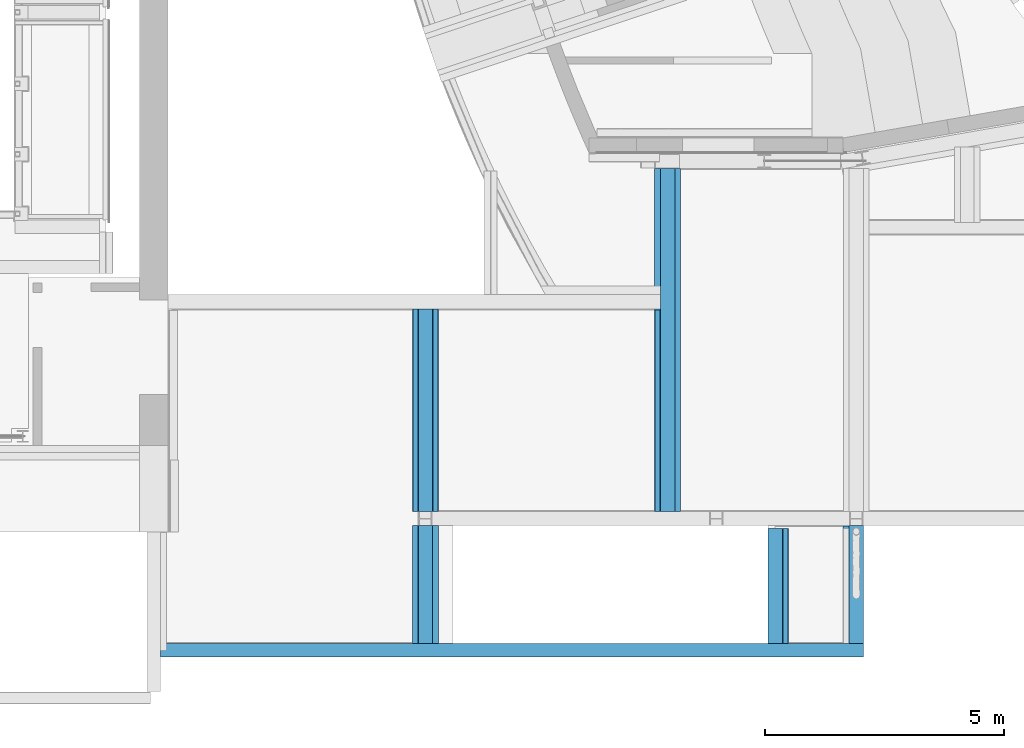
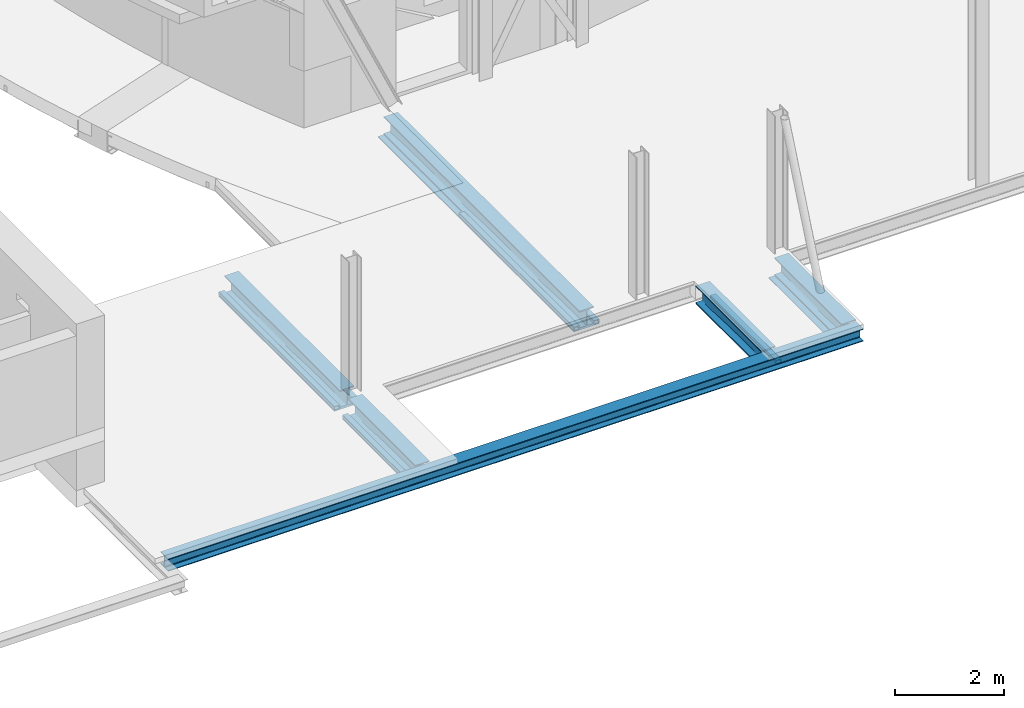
# One storey, part 22 of 68: 12 beams.
"""IFC2X3 building model written with IfcOpenShell, lengths in millimetres."""

from ifc_helpers import new_model, entity, si_unit, converted_unit, derived_unit, direction, frame, frame_2d, origin, origin_2d_with_axis, place, context, subcontext, project, spatial, polyline, circle_curve, parameter, trimmed, segment, composite_curve, rectangle, i_section, outline, extrude, source, transform, mapped, material, material_list, type_object, type_shapes, element, save


model = new_model("IFC2X3")

# Units and contexts
model_context = context("Model", 3, precision=0.01, world=origin(), true_north=direction((6.12303176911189e-17, 1.0)))
body_context = subcontext(model_context, "Body", "Model", "MODEL_VIEW")
ifc_project = project(units=[si_unit("LENGTHUNIT", "METRE", prefix="MILLI"), si_unit("AREAUNIT", "SQUARE_METRE", prefix="MILLI"), si_unit("VOLUMEUNIT", "CUBIC_METRE"), converted_unit("PLANEANGLEUNIT", "DEGREE", entity("IfcRatioMeasure", 0.0174532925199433), si_unit("PLANEANGLEUNIT", "RADIAN"), dimensions=[0, 0, 0, 0, 0, 0, 0]), si_unit("MASSUNIT", "GRAM", prefix="KILO"), derived_unit("MASSDENSITYUNIT", [(si_unit("MASSUNIT", "GRAM", prefix="KILO"), 1), (si_unit("LENGTHUNIT", "METRE"), -3)]), derived_unit("MOMENTOFINERTIAUNIT", [(si_unit("LENGTHUNIT", "METRE"), 4)]), si_unit("TIMEUNIT", "SECOND"), si_unit("FREQUENCYUNIT", "HERTZ"), si_unit("THERMODYNAMICTEMPERATUREUNIT", "DEGREE_CELSIUS"), derived_unit("THERMALTRANSMITTANCEUNIT", [(si_unit("MASSUNIT", "GRAM", prefix="KILO"), 1), (si_unit("THERMODYNAMICTEMPERATUREUNIT", "KELVIN"), -1), (si_unit("TIMEUNIT", "SECOND"), -3)]), derived_unit("VOLUMETRICFLOWRATEUNIT", [(si_unit("LENGTHUNIT", "METRE"), 3), (si_unit("TIMEUNIT", "SECOND"), -1)]), si_unit("ELECTRICCURRENTUNIT", "AMPERE"), si_unit("ELECTRICVOLTAGEUNIT", "VOLT"), si_unit("POWERUNIT", "WATT"), si_unit("FORCEUNIT", "NEWTON", prefix="KILO"), si_unit("ILLUMINANCEUNIT", "LUX"), si_unit("LUMINOUSFLUXUNIT", "LUMEN"), si_unit("LUMINOUSINTENSITYUNIT", "CANDELA"), derived_unit("USERDEFINED", [(si_unit("MASSUNIT", "GRAM", prefix="KILO"), -1), (si_unit("LENGTHUNIT", "METRE"), -2), (si_unit("TIMEUNIT", "SECOND"), 3), (si_unit("LUMINOUSFLUXUNIT", "LUMEN"), 1)]), derived_unit("LINEARVELOCITYUNIT", [(si_unit("LENGTHUNIT", "METRE"), 1), (si_unit("TIMEUNIT", "SECOND"), -1)]), si_unit("PRESSUREUNIT", "PASCAL"), derived_unit("USERDEFINED", [(si_unit("LENGTHUNIT", "METRE"), -2), (si_unit("MASSUNIT", "GRAM", prefix="KILO"), 1), (si_unit("TIMEUNIT", "SECOND"), -2)]), derived_unit("LINEARFORCEUNIT", [(si_unit("MASSUNIT", "GRAM", prefix="KILO"), 1), (si_unit("LENGTHUNIT", "METRE"), 1), (si_unit("TIMEUNIT", "SECOND"), -2), (si_unit("LENGTHUNIT", "METRE"), -1)]), derived_unit("PLANARFORCEUNIT", [(si_unit("MASSUNIT", "GRAM", prefix="KILO"), 1), (si_unit("LENGTHUNIT", "METRE"), 1), (si_unit("TIMEUNIT", "SECOND"), -2), (si_unit("LENGTHUNIT", "METRE"), -2)])], contexts=[model_context])

# Site, building, storey
site_placement = place(None, origin())
site = spatial("IfcSite", under=ifc_project, at=site_placement, Name="Theater aan de Parade", CompositionType="ELEMENT")
building_placement = place(site_placement, origin())
building = spatial("IfcBuilding", under=site, at=building_placement, Name="Theater aan de Parade", CompositionType="ELEMENT")
storey_placement = place(building_placement, frame((0.0, 0.0, 8750.0)))
storey = spatial("IfcBuildingStorey", under=building, at=storey_placement, Name="02 tweede verdieping", CompositionType="ELEMENT", Elevation=8750.0)

# Beams
ifc_material_1 = material(Name="00_PBT_MAT_staal_S355")
beam_type_1 = type_object("IfcBeamType", Name="28_PBT_SF_staal_H-profiel (void):S355_HE280B", PredefinedType="NOTDEFINED")
beam_1_placement = place(storey_placement, frame((52025.3051596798, 10197.0, 0.0), z_axis=(0.0, 0.0, 1.0), x_axis=(-1.0, 0.0, 0.0)))
element("IfcBeam", 1, at=beam_1_placement, inside=storey, type_object=beam_type_1, material=ifc_material_1, Name="28_PBT_SF_staal_H-profiel (void):S355_HE280B", ObjectType="28_PBT_SF_staal_H-profiel (void):S355_HE280B", context=body_context, shape_type="SweptSolid", body=[
    extrude(outline(composite_curve([segment(polyline([(122.0, -140.0), (140.0, -140.0)]), True, "CONTINUOUS"), segment(polyline([(140.0, -140.0), (140.0, 140.0)]), True, "CONTINUOUS"), segment(polyline([(140.0, 140.0), (122.0, 140.0)]), True, "CONTINUOUS"), segment(polyline([(122.0, 140.0), (122.0, 29.2500000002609)]), True, "CONTINUOUS"), segment(trimmed(circle_curve(frame_2d((98.0, 29.2500000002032), x_axis=(1.0, 0.0)), 24.0000000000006), [parameter(270.0)], [parameter(0.0)], True, "PARAMETER"), False, "CONTINUOUS"), segment(polyline([(98.0, 5.25000000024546), (-98.0, 5.2499999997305)]), True, "CONTINUOUS"), segment(trimmed(circle_curve(frame_2d((-98.0, 29.2499999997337), x_axis=(0.0, -1.0)), 24.0000000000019), [parameter(270.00000000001)], [parameter(0.0)], True, "PARAMETER"), False, "CONTINUOUS"), segment(polyline([(-122.0, 29.2499999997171), (-122.0, 140.0)]), True, "CONTINUOUS"), segment(polyline([(-122.0, 140.0), (-140.0, 140.0)]), True, "CONTINUOUS"), segment(polyline([(-140.0, 140.0), (-140.0, -140.0)]), True, "CONTINUOUS"), segment(polyline([(-140.0, -140.0), (-122.0, -140.0)]), True, "CONTINUOUS"), segment(polyline([(-122.0, -140.0), (-122.0, -29.2500000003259)]), True, "CONTINUOUS"), segment(trimmed(circle_curve(frame_2d((-98.0, -29.2500000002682), x_axis=(-1.0, 0.0)), 24.0000000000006), [parameter(270.0)], [parameter(0.0)], True, "PARAMETER"), False, "CONTINUOUS"), segment(polyline([(-98.0, -5.25000000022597), (98.0, -5.24999999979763)]), True, "CONTINUOUS"), segment(trimmed(circle_curve(frame_2d((98.0, -29.2499999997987), x_axis=(0.0, 1.0)), 24.0000000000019), [parameter(270.00000000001)], [parameter(0.0)], True, "PARAMETER"), False, "CONTINUOUS"), segment(polyline([(122.0, -29.2499999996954), (122.0, -140.0)]), True, "CONTINUOUS")], self_intersect=False)), frame((0.0, 0.0, -320.0), z_axis=(1.0, 0.0, 0.0), x_axis=(0.0, 0.0, -1.0)), (0.0, 0.0, 1.0), 14731.4470295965),
])
ifc_material_2 = material(Name="00_PBT_MAT_staal_S235")
beam_type_2 = type_object("IfcBeamType", Name="28_PBT_SF_staal_koker:S235_K80x120x6.3", PredefinedType="NOTDEFINED")
beam_2_placement = place(storey_placement, frame((42569.909163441, 10337.0, 0.0), z_axis=(0.0, 0.0, 1.0), x_axis=(0.0, 1.0, 0.0)))
element("IfcBeam", 2, at=beam_2_placement, inside=storey, type_object=beam_type_2, material=ifc_material_2, Name="28_PBT_SF_staal_koker:S235_K80x120x6.3", ObjectType="28_PBT_SF_staal_koker:S235_K80x120x6.3", context=body_context, shape_type="SweptSolid", body=[
    extrude(outline(composite_curve([segment(trimmed(circle_curve(frame_2d((-50.5500000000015, -30.5499999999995), x_axis=(1.0, 0.0)), 9.45), [parameter(180.0)], [parameter(270.0)], True, "PARAMETER"), True, "CONTINUOUS"), segment(polyline([(-50.5500000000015, -40.0), (50.5500000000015, -40.0)]), True, "CONTINUOUS"), segment(trimmed(circle_curve(frame_2d((50.5500000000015, -30.5499999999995), x_axis=(1.0, 0.0)), 9.45), [parameter(270.0)], [parameter(0.0)], True, "PARAMETER"), True, "CONTINUOUS"), segment(polyline([(60.0, -30.5499999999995), (60.0, 30.5500000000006)]), True, "CONTINUOUS"), segment(trimmed(circle_curve(frame_2d((50.5500000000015, 30.5500000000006), x_axis=(1.0, 0.0)), 9.45), [parameter(3.56222124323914e-13)], [parameter(90.0000000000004)], True, "PARAMETER"), True, "CONTINUOUS"), segment(polyline([(50.5500000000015, 40.0), (-50.5500000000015, 40.0)]), True, "CONTINUOUS"), segment(trimmed(circle_curve(frame_2d((-50.5500000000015, 30.5500000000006), x_axis=(1.0, 0.0)), 9.45), [parameter(90.0000000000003)], [parameter(180.0)], True, "PARAMETER"), True, "CONTINUOUS"), segment(polyline([(-60.0, 30.5500000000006), (-60.0, -30.5499999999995)]), True, "CONTINUOUS")], self_intersect=False), holes=[composite_curve([segment(trimmed(circle_curve(frame_2d((47.3999999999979, 27.4000000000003), x_axis=(1.0, 0.0)), 6.3), [parameter(5.08888749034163e-14)], [parameter(90.0000000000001)], True, "PARAMETER"), False, "CONTINUOUS"), segment(polyline([(53.6999999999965, 27.4000000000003), (53.6999999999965, -27.3999999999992)]), True, "CONTINUOUS"), segment(trimmed(circle_curve(frame_2d((47.3999999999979, -27.3999999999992), x_axis=(1.0, 0.0)), 6.3), [parameter(269.999999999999)], [parameter(360.0)], True, "PARAMETER"), False, "CONTINUOUS"), segment(polyline([(47.3999999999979, -33.6999999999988), (-47.3999999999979, -33.6999999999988)]), True, "CONTINUOUS"), segment(trimmed(circle_curve(frame_2d((-47.3999999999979, -27.3999999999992), x_axis=(1.0, 0.0)), 6.3), [parameter(180.0)], [parameter(270.0)], True, "PARAMETER"), False, "CONTINUOUS"), segment(polyline([(-53.6999999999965, -27.3999999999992), (-53.6999999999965, 27.4000000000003)]), True, "CONTINUOUS"), segment(trimmed(circle_curve(frame_2d((-47.3999999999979, 27.4000000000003), x_axis=(1.0, 0.0)), 6.3), [parameter(89.9999999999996)], [parameter(180.0)], True, "PARAMETER"), False, "CONTINUOUS"), segment(polyline([(-47.3999999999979, 33.700000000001), (47.3999999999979, 33.700000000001)]), True, "CONTINUOUS")], self_intersect=False)]), frame((0.0, -60.0, -505.0), z_axis=(1.0, 0.0, 0.0), x_axis=(0.0, 1.0, 0.0)), (0.0, 0.0, 1.0), 2467.99999999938),
])
beam_3_placement = place(storey_placement, frame((50450.4654816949, 10337.0, 0.0), z_axis=(0.0, 0.0, 1.0), x_axis=(0.0, 1.0, 0.0)))
element("IfcBeam", 3, at=beam_3_placement, inside=storey, type_object=beam_type_2, material=ifc_material_2, Name="28_PBT_SF_staal_koker:S235_K80x120x6.3", ObjectType="28_PBT_SF_staal_koker:S235_K80x120x6.3", context=body_context, shape_type="SweptSolid", body=[
    extrude(outline(composite_curve([segment(polyline([(-30.5499999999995, -60.0), (30.5500000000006, -60.0)]), True, "CONTINUOUS"), segment(trimmed(circle_curve(frame_2d((30.5500000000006, -50.5500000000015), x_axis=(0.0, 1.0)), 9.45), [parameter(180.0)], [parameter(270.0)], True, "PARAMETER"), True, "CONTINUOUS"), segment(polyline([(40.0, -50.5500000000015), (40.0, 50.5500000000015)]), True, "CONTINUOUS"), segment(trimmed(circle_curve(frame_2d((30.5500000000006, 50.5500000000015), x_axis=(0.0, 1.0)), 9.45), [parameter(270.0)], [parameter(360.0)], True, "PARAMETER"), True, "CONTINUOUS"), segment(polyline([(30.5500000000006, 60.0), (-30.5499999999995, 60.0)]), True, "CONTINUOUS"), segment(trimmed(circle_curve(frame_2d((-30.5499999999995, 50.5500000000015), x_axis=(0.0, 1.0)), 9.45), [parameter(0.0)], [parameter(90.0000000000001)], True, "PARAMETER"), True, "CONTINUOUS"), segment(polyline([(-40.0, 50.5500000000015), (-40.0, -50.5500000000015)]), True, "CONTINUOUS"), segment(trimmed(circle_curve(frame_2d((-30.5499999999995, -50.5500000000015), x_axis=(0.0, 1.0)), 9.45), [parameter(90.0)], [parameter(180.0)], True, "PARAMETER"), True, "CONTINUOUS")], self_intersect=False), holes=[composite_curve([segment(polyline([(33.700000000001, 47.3999999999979), (33.700000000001, -47.3999999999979)]), True, "CONTINUOUS"), segment(trimmed(circle_curve(frame_2d((27.4000000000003, -47.3999999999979), x_axis=(0.0, 1.0)), 6.3), [parameter(180.0)], [parameter(270.0)], True, "PARAMETER"), False, "CONTINUOUS"), segment(polyline([(27.4000000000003, -53.6999999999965), (-27.3999999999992, -53.6999999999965)]), True, "CONTINUOUS"), segment(trimmed(circle_curve(frame_2d((-27.3999999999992, -47.3999999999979), x_axis=(0.0, 1.0)), 6.3), [parameter(90.0)], [parameter(180.0)], True, "PARAMETER"), False, "CONTINUOUS"), segment(polyline([(-33.6999999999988, -47.3999999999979), (-33.6999999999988, 47.3999999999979)]), True, "CONTINUOUS"), segment(trimmed(circle_curve(frame_2d((-27.3999999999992, 47.3999999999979), x_axis=(0.0, 1.0)), 6.3), [parameter(4.07110999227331e-13)], [parameter(90.0000000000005)], True, "PARAMETER"), False, "CONTINUOUS"), segment(polyline([(-27.3999999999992, 53.6999999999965), (27.4000000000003, 53.6999999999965)]), True, "CONTINUOUS"), segment(trimmed(circle_curve(frame_2d((27.4000000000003, 47.3999999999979), x_axis=(0.0, 1.0)), 6.3), [parameter(270.0)], [parameter(360.0)], True, "PARAMETER"), False, "CONTINUOUS")], self_intersect=False)]), frame((0.0, 60.0, -505.0), z_axis=(1.0, 0.0, 0.0), x_axis=(0.0, 0.0, 1.0)), (0.0, 0.0, 1.0), 2412.99999999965),
])
beam_4_placement = place(storey_placement, frame((42574.9091634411, 17350.244375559, 0.0), z_axis=(0.0, 0.0, 1.0), x_axis=(0.0, -1.0, 0.0)))
element("IfcBeam", 4, at=beam_4_placement, inside=storey, type_object=beam_type_2, material=ifc_material_2, Name="28_PBT_SF_staal_koker:S235_K80x120x6.3", ObjectType="28_PBT_SF_staal_koker:S235_K80x120x6.3", context=body_context, shape_type="SweptSolid", body=[
    extrude(outline(composite_curve([segment(polyline([(-30.5499999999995, -60.0), (30.5500000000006, -60.0)]), True, "CONTINUOUS"), segment(trimmed(circle_curve(frame_2d((30.5500000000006, -50.5499999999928), x_axis=(0.0, 1.0)), 9.45), [parameter(180.0)], [parameter(270.0)], True, "PARAMETER"), True, "CONTINUOUS"), segment(polyline([(40.0, -50.5500000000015), (40.0, 50.5500000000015)]), True, "CONTINUOUS"), segment(trimmed(circle_curve(frame_2d((30.5500000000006, 50.5500000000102), x_axis=(0.0, 1.0)), 9.45), [parameter(270.0)], [parameter(360.0)], True, "PARAMETER"), True, "CONTINUOUS"), segment(polyline([(30.5500000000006, 60.0), (-30.5499999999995, 60.0)]), True, "CONTINUOUS"), segment(trimmed(circle_curve(frame_2d((-30.5499999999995, 50.5500000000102), x_axis=(0.0, 1.0)), 9.45), [parameter(0.0)], [parameter(90.0000000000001)], True, "PARAMETER"), True, "CONTINUOUS"), segment(polyline([(-40.0, 50.5500000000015), (-40.0, -50.5500000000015)]), True, "CONTINUOUS"), segment(trimmed(circle_curve(frame_2d((-30.5499999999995, -50.5499999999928), x_axis=(0.0, 1.0)), 9.45), [parameter(90.0)], [parameter(180.0)], True, "PARAMETER"), True, "CONTINUOUS")], self_intersect=False), holes=[composite_curve([segment(polyline([(33.700000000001, 47.3999999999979), (33.700000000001, -47.3999999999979)]), True, "CONTINUOUS"), segment(trimmed(circle_curve(frame_2d((27.4000000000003, -47.3999999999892), x_axis=(0.0, 1.0)), 6.3), [parameter(180.0)], [parameter(270.0)], True, "PARAMETER"), False, "CONTINUOUS"), segment(polyline([(27.4000000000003, -53.6999999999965), (-27.3999999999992, -53.6999999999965)]), True, "CONTINUOUS"), segment(trimmed(circle_curve(frame_2d((-27.3999999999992, -47.3999999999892), x_axis=(0.0, 1.0)), 6.3), [parameter(90.0)], [parameter(180.0)], True, "PARAMETER"), False, "CONTINUOUS"), segment(polyline([(-33.6999999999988, -47.3999999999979), (-33.6999999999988, 47.3999999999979)]), True, "CONTINUOUS"), segment(trimmed(circle_curve(frame_2d((-27.3999999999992, 47.4000000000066), x_axis=(0.0, 1.0)), 6.3), [parameter(4.07110999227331e-13)], [parameter(90.0000000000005)], True, "PARAMETER"), False, "CONTINUOUS"), segment(polyline([(-27.3999999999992, 53.6999999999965), (27.4000000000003, 53.6999999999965)]), True, "CONTINUOUS"), segment(trimmed(circle_curve(frame_2d((27.4000000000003, 47.4000000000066), x_axis=(0.0, 1.0)), 6.3), [parameter(270.0)], [parameter(360.0)], True, "PARAMETER"), False, "CONTINUOUS")], self_intersect=False)]), frame((0.0, 60.0, -505.0), z_axis=(1.0, 0.0, 0.0), x_axis=(0.0, 0.0, 1.0)), (0.0, 0.0, 1.0), 4245.24437555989),
])
beam_5_placement = place(storey_placement, frame((43114.9091634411, 17350.244375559, 0.0), z_axis=(0.0, 0.0, 1.0), x_axis=(0.0, -1.0, 0.0)))
element("IfcBeam", 5, at=beam_5_placement, inside=storey, type_object=beam_type_2, material=ifc_material_2, Name="28_PBT_SF_staal_koker:S235_K80x120x6.3", ObjectType="28_PBT_SF_staal_koker:S235_K80x120x6.3", context=body_context, shape_type="SweptSolid", body=[
    extrude(outline(composite_curve([segment(trimmed(circle_curve(frame_2d((-50.5500000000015, -30.5499999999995), x_axis=(1.0, 0.0)), 9.45), [parameter(180.0)], [parameter(270.0)], True, "PARAMETER"), True, "CONTINUOUS"), segment(polyline([(-50.5499999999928, -40.0), (50.5500000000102, -40.0)]), True, "CONTINUOUS"), segment(trimmed(circle_curve(frame_2d((50.5500000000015, -30.5499999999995), x_axis=(1.0, 0.0)), 9.45), [parameter(270.0)], [parameter(0.0)], True, "PARAMETER"), True, "CONTINUOUS"), segment(polyline([(60.0, -30.5499999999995), (60.0, 30.5500000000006)]), True, "CONTINUOUS"), segment(trimmed(circle_curve(frame_2d((50.5500000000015, 30.5500000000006), x_axis=(1.0, 0.0)), 9.45), [parameter(3.56222124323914e-13)], [parameter(90.0000000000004)], True, "PARAMETER"), True, "CONTINUOUS"), segment(polyline([(50.5500000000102, 40.0), (-50.5499999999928, 40.0)]), True, "CONTINUOUS"), segment(trimmed(circle_curve(frame_2d((-50.5500000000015, 30.5500000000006), x_axis=(1.0, 0.0)), 9.45), [parameter(90.0000000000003)], [parameter(180.0)], True, "PARAMETER"), True, "CONTINUOUS"), segment(polyline([(-60.0, 30.5500000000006), (-60.0, -30.5499999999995)]), True, "CONTINUOUS")], self_intersect=False), holes=[composite_curve([segment(trimmed(circle_curve(frame_2d((47.3999999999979, 27.4000000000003), x_axis=(1.0, 0.0)), 6.3), [parameter(5.08888749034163e-14)], [parameter(90.0000000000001)], True, "PARAMETER"), False, "CONTINUOUS"), segment(polyline([(53.7000000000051, 27.4000000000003), (53.7000000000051, -27.3999999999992)]), True, "CONTINUOUS"), segment(trimmed(circle_curve(frame_2d((47.3999999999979, -27.3999999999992), x_axis=(1.0, 0.0)), 6.3), [parameter(269.999999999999)], [parameter(360.0)], True, "PARAMETER"), False, "CONTINUOUS"), segment(polyline([(47.4000000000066, -33.6999999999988), (-47.3999999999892, -33.6999999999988)]), True, "CONTINUOUS"), segment(trimmed(circle_curve(frame_2d((-47.3999999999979, -27.3999999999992), x_axis=(1.0, 0.0)), 6.3), [parameter(180.0)], [parameter(270.0)], True, "PARAMETER"), False, "CONTINUOUS"), segment(polyline([(-53.6999999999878, -27.3999999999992), (-53.6999999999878, 27.4000000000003)]), True, "CONTINUOUS"), segment(trimmed(circle_curve(frame_2d((-47.3999999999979, 27.4000000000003), x_axis=(1.0, 0.0)), 6.3), [parameter(89.9999999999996)], [parameter(180.0)], True, "PARAMETER"), False, "CONTINUOUS"), segment(polyline([(-47.3999999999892, 33.700000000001), (47.4000000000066, 33.700000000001)]), True, "CONTINUOUS")], self_intersect=False)]), frame((0.0, -60.0, -505.0), z_axis=(1.0, 0.0, 0.0), x_axis=(0.0, 1.0, 0.0)), (0.0, 0.0, 1.0), 4245.24437555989),
])
beam_6_placement = place(storey_placement, frame((47651.4115208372, 17330.244375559, 0.0), z_axis=(0.0, 0.0, 1.0), x_axis=(0.0, -1.0, 0.0)))
element("IfcBeam", 6, at=beam_6_placement, inside=storey, type_object=beam_type_2, material=ifc_material_2, Name="28_PBT_SF_staal_koker:S235_K80x120x6.3", ObjectType="28_PBT_SF_staal_koker:S235_K80x120x6.3", context=body_context, shape_type="SweptSolid", body=[
    extrude(outline(composite_curve([segment(polyline([(-30.5499999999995, -60.0), (30.5500000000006, -60.0)]), True, "CONTINUOUS"), segment(trimmed(circle_curve(frame_2d((30.5500000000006, -50.5499999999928), x_axis=(0.0, 1.0)), 9.45), [parameter(180.0)], [parameter(270.0)], True, "PARAMETER"), True, "CONTINUOUS"), segment(polyline([(40.0, -50.5500000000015), (40.0, 50.5500000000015)]), True, "CONTINUOUS"), segment(trimmed(circle_curve(frame_2d((30.5500000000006, 50.5500000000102), x_axis=(0.0, 1.0)), 9.45), [parameter(270.0)], [parameter(360.0)], True, "PARAMETER"), True, "CONTINUOUS"), segment(polyline([(30.5500000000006, 60.0), (-30.5499999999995, 60.0)]), True, "CONTINUOUS"), segment(trimmed(circle_curve(frame_2d((-30.5499999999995, 50.5500000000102), x_axis=(0.0, 1.0)), 9.45), [parameter(0.0)], [parameter(90.0000000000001)], True, "PARAMETER"), True, "CONTINUOUS"), segment(polyline([(-40.0, 50.5500000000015), (-40.0, -50.5500000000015)]), True, "CONTINUOUS"), segment(trimmed(circle_curve(frame_2d((-30.5499999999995, -50.5499999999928), x_axis=(0.0, 1.0)), 9.45), [parameter(90.0)], [parameter(180.0)], True, "PARAMETER"), True, "CONTINUOUS")], self_intersect=False), holes=[composite_curve([segment(polyline([(33.700000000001, 47.3999999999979), (33.700000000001, -47.3999999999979)]), True, "CONTINUOUS"), segment(trimmed(circle_curve(frame_2d((27.4000000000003, -47.3999999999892), x_axis=(0.0, 1.0)), 6.3), [parameter(180.0)], [parameter(270.0)], True, "PARAMETER"), False, "CONTINUOUS"), segment(polyline([(27.4000000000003, -53.6999999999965), (-27.3999999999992, -53.6999999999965)]), True, "CONTINUOUS"), segment(trimmed(circle_curve(frame_2d((-27.3999999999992, -47.3999999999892), x_axis=(0.0, 1.0)), 6.3), [parameter(90.0)], [parameter(180.0)], True, "PARAMETER"), False, "CONTINUOUS"), segment(polyline([(-33.6999999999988, -47.3999999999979), (-33.6999999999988, 47.3999999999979)]), True, "CONTINUOUS"), segment(trimmed(circle_curve(frame_2d((-27.3999999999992, 47.4000000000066), x_axis=(0.0, 1.0)), 6.3), [parameter(4.07110999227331e-13)], [parameter(90.0000000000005)], True, "PARAMETER"), False, "CONTINUOUS"), segment(polyline([(-27.3999999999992, 53.6999999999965), (27.4000000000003, 53.6999999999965)]), True, "CONTINUOUS"), segment(trimmed(circle_curve(frame_2d((27.4000000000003, 47.4000000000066), x_axis=(0.0, 1.0)), 6.3), [parameter(270.0)], [parameter(360.0)], True, "PARAMETER"), False, "CONTINUOUS")], self_intersect=False)]), frame((0.0, 60.0, -505.0), z_axis=(1.0, 0.0, 0.0), x_axis=(0.0, 0.0, 1.0)), (0.0, 0.0, 1.0), 4225.2443755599),
])
beam_7_placement = place(storey_placement, frame((48191.4115208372, 20295.0, 0.0), z_axis=(0.0, 0.0, 1.0), x_axis=(0.0, -1.0, 0.0)))
element("IfcBeam", 7, at=beam_7_placement, inside=storey, type_object=beam_type_2, material=ifc_material_2, Name="28_PBT_SF_staal_koker:S235_K80x120x6.3", ObjectType="28_PBT_SF_staal_koker:S235_K80x120x6.3", context=body_context, shape_type="SweptSolid", body=[
    extrude(outline(composite_curve([segment(trimmed(circle_curve(frame_2d((-50.5500000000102, -30.5499999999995), x_axis=(1.0, 0.0)), 9.45), [parameter(180.0)], [parameter(270.0)], True, "PARAMETER"), True, "CONTINUOUS"), segment(polyline([(-50.5500000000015, -40.0), (50.5500000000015, -40.0)]), True, "CONTINUOUS"), segment(trimmed(circle_curve(frame_2d((50.5499999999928, -30.5499999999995), x_axis=(1.0, 0.0)), 9.45), [parameter(270.0)], [parameter(0.0)], True, "PARAMETER"), True, "CONTINUOUS"), segment(polyline([(60.0, -30.5499999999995), (60.0, 30.5500000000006)]), True, "CONTINUOUS"), segment(trimmed(circle_curve(frame_2d((50.5499999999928, 30.5500000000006), x_axis=(1.0, 0.0)), 9.45), [parameter(3.56222124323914e-13)], [parameter(90.0000000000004)], True, "PARAMETER"), True, "CONTINUOUS"), segment(polyline([(50.5500000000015, 40.0), (-50.5500000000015, 40.0)]), True, "CONTINUOUS"), segment(trimmed(circle_curve(frame_2d((-50.5500000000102, 30.5500000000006), x_axis=(1.0, 0.0)), 9.45), [parameter(90.0000000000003)], [parameter(180.0)], True, "PARAMETER"), True, "CONTINUOUS"), segment(polyline([(-60.0, 30.5500000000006), (-60.0, -30.5499999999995)]), True, "CONTINUOUS")], self_intersect=False), holes=[composite_curve([segment(trimmed(circle_curve(frame_2d((47.3999999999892, 27.4000000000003), x_axis=(1.0, 0.0)), 6.3), [parameter(5.08888749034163e-14)], [parameter(90.0000000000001)], True, "PARAMETER"), False, "CONTINUOUS"), segment(polyline([(53.6999999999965, 27.4000000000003), (53.6999999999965, -27.3999999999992)]), True, "CONTINUOUS"), segment(trimmed(circle_curve(frame_2d((47.3999999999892, -27.3999999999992), x_axis=(1.0, 0.0)), 6.3), [parameter(269.999999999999)], [parameter(360.0)], True, "PARAMETER"), False, "CONTINUOUS"), segment(polyline([(47.3999999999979, -33.6999999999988), (-47.3999999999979, -33.6999999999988)]), True, "CONTINUOUS"), segment(trimmed(circle_curve(frame_2d((-47.4000000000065, -27.3999999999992), x_axis=(1.0, 0.0)), 6.3), [parameter(180.0)], [parameter(270.0)], True, "PARAMETER"), False, "CONTINUOUS"), segment(polyline([(-53.6999999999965, -27.3999999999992), (-53.6999999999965, 27.4000000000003)]), True, "CONTINUOUS"), segment(trimmed(circle_curve(frame_2d((-47.4000000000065, 27.4000000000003), x_axis=(1.0, 0.0)), 6.3), [parameter(89.9999999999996)], [parameter(180.0)], True, "PARAMETER"), False, "CONTINUOUS"), segment(polyline([(-47.3999999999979, 33.700000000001), (47.3999999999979, 33.700000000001)]), True, "CONTINUOUS")], self_intersect=False)]), frame((0.0, -60.0, -505.0), z_axis=(1.0, 0.0, 0.0), x_axis=(0.0, 1.0, 0.0)), (0.0, 0.0, 1.0), 7190.00000000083),
])
ifc_material_3 = material(Name="00_PBT_MAT_Lucht")
ifc_material_list_1 = material_list([ifc_material_1, ifc_material_3])
beam_type_3 = type_object("IfcBeamType", Name="28_PBT_SF_staal_H-profiel_met_ondergelaste_strip (void):S355_HE400B + ondergelaste strip", PredefinedType="BEAM", material=ifc_material_list_1)
shared_shape_1 = source(origin(), body_context, "Body", "SweptSolid", [
    extrude(i_section(OverallWidth=300.000000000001, OverallDepth=400.0, WebThickness=13.4999999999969, FlangeThickness=24.000000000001, FilletRadius=27.0000000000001, at=frame_2d((0.0, 1.09423581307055e-12), x_axis=(1.0, 0.0))), frame((51875.3051596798, 10337.0, 8405.0), z_axis=(0.0, 1.0, 0.0), x_axis=(-1.0, 0.0, 0.0)), (0.0, 0.0, 1.0), 2467.99999999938),
    extrude(rectangle(XDim=14.9999999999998, YDim=420.0, at=frame_2d((4.33431068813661e-12, 0.0), x_axis=(0.0, 1.0))), frame((51810.3051596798, 10338.0, 8197.5), z_axis=(0.0, 1.0, 0.0), x_axis=(-1.0, 0.0, 0.0)), (0.0, 0.0, 1.0), 2465.99999999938),
])
type_shapes(beam_type_3, [shared_shape_1])
beam_8_placement = place(storey_placement, frame((0.0, 0.0, -8750.0)))
element("IfcBeam", 8, at=beam_8_placement, inside=storey, type_object=beam_type_3, material=ifc_material_1, Name="28_PBT_SF_staal_H-profiel_met_ondergelaste_strip (void):S355_HE400B + ondergelaste strip", ObjectType="28_PBT_SF_staal_H-profiel_met_ondergelaste_strip (void):S355_HE400B + ondergelaste strip", context=body_context, shape_type="MappedRepresentation", body=[
    mapped(shared_shape_1, transform((0.0, 0.0, 0.0), scale=1.0)),
])
ifc_material_list_2 = material_list([ifc_material_1, ifc_material_3])
beam_type_4 = type_object("IfcBeamType", Name="28_PBT_SF_staal_H-profiel_met_onderplaat (void):S355_HE400B + onderplaat d=25", PredefinedType="BEAM", material=ifc_material_list_2)
shared_shape_2 = source(origin(), body_context, "Body", "SweptSolid", [
    extrude(i_section(OverallWidth=300.000000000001, OverallDepth=400.0, WebThickness=13.4999999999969, FlangeThickness=24.000000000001, FilletRadius=27.0000000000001, at=frame_2d((-8.65441052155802e-12, 1.09423581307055e-12), x_axis=(1.0, 0.0))), frame((42844.909163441, 10337.0, 8405.0), z_axis=(0.0, 1.0, 0.0), x_axis=(-1.0, 0.0, 0.0)), (0.0, 0.0, 1.0), 2467.99999999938),
    extrude(rectangle(XDim=24.9999999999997, YDim=540.000000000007, at=frame_2d((-4.34852154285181e-12, 5.41788836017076e-13), x_axis=(0.0, 1.0))), frame((42844.909163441, 10337.0, 8192.5), z_axis=(0.0, 1.0, 0.0), x_axis=(-1.0, 0.0, 0.0)), (0.0, 0.0, 1.0), 2467.99999999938),
])
type_shapes(beam_type_4, [shared_shape_2])
beam_9_placement = place(storey_placement, frame((0.0, 0.0, -8750.0)))
element("IfcBeam", 9, at=beam_9_placement, inside=storey, type_object=beam_type_4, material=ifc_material_1, Name="28_PBT_SF_staal_H-profiel_met_onderplaat (void):S355_HE400B + onderplaat d=25", ObjectType="28_PBT_SF_staal_H-profiel_met_onderplaat (void):S355_HE400B + onderplaat d=25", context=body_context, shape_type="MappedRepresentation", body=[
    mapped(shared_shape_2, transform((0.0, 0.0, 0.0), scale=1.0)),
])
ifc_material_list_3 = material_list([ifc_material_3, ifc_material_1])
beam_type_5 = type_object("IfcBeamType", Name="28_PBT_SF_staal_H-profiel_met_ondergelaste_strip (void):S355_HE400B + ondergelaste strip", PredefinedType="BEAM", material=ifc_material_list_3)
shared_shape_3 = source(origin(), body_context, "Body", "SweptSolid", [
    extrude(i_section(OverallWidth=300.000000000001, OverallDepth=400.0, WebThickness=13.4999999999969, FlangeThickness=24.0, FilletRadius=27.0000000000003, at=frame_2d((8.65441052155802e-12, -1.09423581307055e-12), x_axis=(1.0, 0.0))), frame((50175.4654816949, 10337.0, 8405.0), z_axis=(0.0, 1.0, 0.0), x_axis=(-1.0, 0.0, 0.0)), (0.0, 0.0, 1.0), 2412.99999999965),
    extrude(rectangle(XDim=14.9999999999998, YDim=420.0, at=frame_2d((4.33431068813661e-12, 0.0), x_axis=(0.0, 1.0))), frame((50240.4654816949, 10338.0, 8197.5), z_axis=(0.0, 1.0, 0.0), x_axis=(-1.0, 0.0, 0.0)), (0.0, 0.0, 1.0), 2410.99999999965),
])
type_shapes(beam_type_5, [shared_shape_3])
beam_10_placement = place(storey_placement, frame((0.0, 0.0, -8750.0)))
element("IfcBeam", 10, at=beam_10_placement, inside=storey, type_object=beam_type_5, material=ifc_material_1, Name="28_PBT_SF_staal_H-profiel_met_ondergelaste_strip (void):S355_HE400B + ondergelaste strip", ObjectType="28_PBT_SF_staal_H-profiel_met_ondergelaste_strip (void):S355_HE400B + ondergelaste strip", context=body_context, shape_type="MappedRepresentation", body=[
    mapped(shared_shape_3, transform((0.0, 0.0, 0.0), scale=1.0)),
])
ifc_material_list_4 = material_list([ifc_material_1, ifc_material_3])
beam_type_6 = type_object("IfcBeamType", Name="28_PBT_SF_staal_H-profiel_met_onderplaat (void):S355_HE400B + onderplaat d=25", PredefinedType="BEAM", material=ifc_material_list_4)
shared_shape_4 = source(origin(), body_context, "Body", "SweptSolid", [
    extrude(i_section(OverallWidth=300.000000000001, OverallDepth=400.0, WebThickness=13.4999999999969, FlangeThickness=23.9999999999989, FilletRadius=27.0000000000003, at=frame_2d((-8.65441052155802e-12, 0.0), x_axis=(1.0, 0.0))), frame((42844.9091634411, 17350.244375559, 8405.0), z_axis=(0.0, -1.0, 0.0), x_axis=(-1.0, 0.0, 0.0)), (0.0, 0.0, 1.0), 4245.2443755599),
    extrude(rectangle(XDim=24.9999999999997, YDim=540.000000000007, at=frame_2d((-4.32009983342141e-12, -5.41788836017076e-13), x_axis=(0.0, 1.0))), frame((42844.9091634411, 17350.244375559, 8192.5), z_axis=(0.0, -1.0, 0.0), x_axis=(-1.0, 0.0, 0.0)), (0.0, 0.0, 1.0), 4245.2443755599),
])
type_shapes(beam_type_6, [shared_shape_4])
beam_11_placement = place(storey_placement, frame((0.0, 0.0, -8750.0)))
element("IfcBeam", 11, at=beam_11_placement, inside=storey, type_object=beam_type_6, material=ifc_material_1, Name="28_PBT_SF_staal_H-profiel_met_onderplaat (void):S355_HE400B + onderplaat d=25", ObjectType="28_PBT_SF_staal_H-profiel_met_onderplaat (void):S355_HE400B + onderplaat d=25", context=body_context, shape_type="MappedRepresentation", body=[
    mapped(shared_shape_4, transform((0.0, 0.0, 0.0), scale=1.0)),
])
ifc_material_list_5 = material_list([ifc_material_3, ifc_material_1])
beam_type_7 = type_object("IfcBeamType", Name="28_PBT_SF_staal_H-profiel_met_onderplaat (void):S355_HE400B + onderplaat d=25", PredefinedType="BEAM", material=ifc_material_list_5)
shared_shape_5 = source(origin(), body_context, "Body", "SweptSolid", [
    extrude(i_section(OverallWidth=300.000000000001, OverallDepth=400.0, WebThickness=13.4999999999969, FlangeThickness=23.9999999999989, FilletRadius=27.0000000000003, at=origin_2d_with_axis()), frame((47921.4115208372, 20295.0, 8405.0), z_axis=(0.0, -1.0, 0.0), x_axis=(-1.0, 0.0, 0.0)), (0.0, 0.0, 1.0), 7190.00000000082),
    extrude(rectangle(XDim=24.9999999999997, YDim=540.000000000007, at=frame_2d((-4.32009983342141e-12, -5.41788836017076e-13), x_axis=(0.0, 1.0))), frame((47921.4115208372, 20295.0, 8192.5), z_axis=(0.0, -1.0, 0.0), x_axis=(-1.0, 0.0, 0.0)), (0.0, 0.0, 1.0), 7190.00000000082),
])
type_shapes(beam_type_7, [shared_shape_5])
beam_12_placement = place(storey_placement, frame((0.0, 0.0, -8750.0)))
element("IfcBeam", 12, at=beam_12_placement, inside=storey, type_object=beam_type_7, material=ifc_material_1, Name="28_PBT_SF_staal_H-profiel_met_onderplaat (void):S355_HE400B + onderplaat d=25", ObjectType="28_PBT_SF_staal_H-profiel_met_onderplaat (void):S355_HE400B + onderplaat d=25", context=body_context, shape_type="MappedRepresentation", body=[
    mapped(shared_shape_5, transform((0.0, 0.0, 0.0), scale=1.0)),
])

save(model, "model.ifc")
